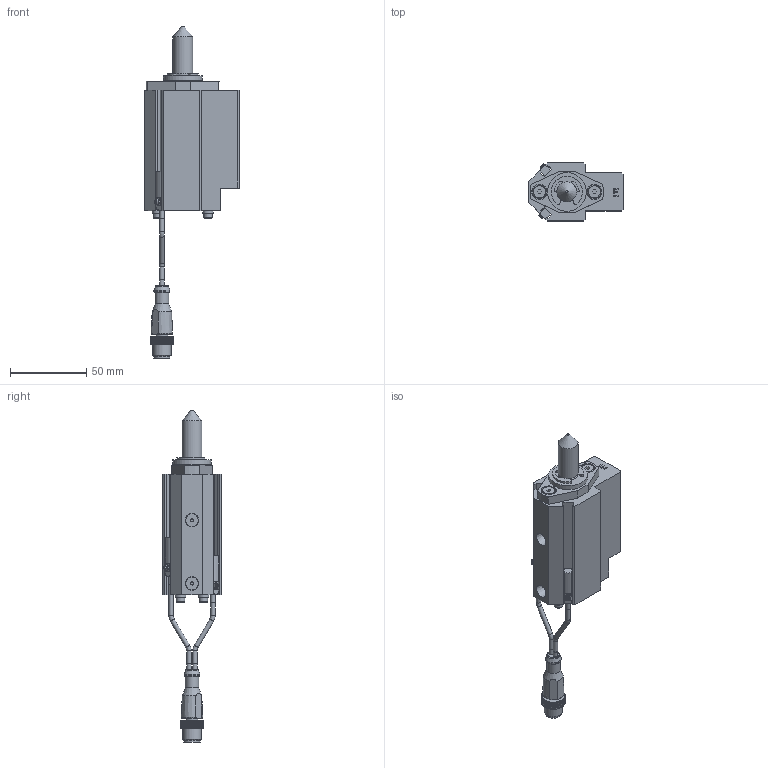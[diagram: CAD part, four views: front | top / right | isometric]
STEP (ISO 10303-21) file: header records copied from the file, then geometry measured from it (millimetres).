
FILE_DESCRIPTION(/* description */ ('NAAMS FLOATING MICRO PIN'),/* implementation_level */ '2;1');
FILE_NAME(/* name */ 'C:\Vault Workspace\CAD\Welker\Shot Pin\NMP\NMP130022AENL3.stp',/* time_stamp */ '2021-01-27T10:57:11-05:00',/* author */ ('WELKER'),/* organization */ (''),/* preprocessor_version */ 'ST-DEVELOPER v18.1',/* originating_system */ 'Autodesk Inventor 2020',/* authorisation */ '');
FILE_SCHEMA (('AUTOMOTIVE_DESIGN { 1 0 10303 214 3 1 1 }'));
Length unit declared in the file: millimetre
Products named in the file (16): NMPL01; NMP L3 SWITCH; L3 Connector; L3 Sensor 1; L3 Sensor 2; L3 Sensor cable; L3 Sensor cable 2; M3X0.5-8 SHCS; NL3; NMPE06; NMPE03; NMPE05-DIA-LENGTH; 985432A218; NMPE01E-PORT; RMPE02; M5X5 SHOULDER
Assembly tree (22 placements, depth 3):
  NMPL01
    NMP L3 SWITCH
      L3 Connector
      L3 Sensor 1
      L3 Sensor 2
      L3 Sensor cable
      L3 Sensor cable 2
    M3X0.5-8 SHCS  x4
    NL3  x4
    NMPE06
    NMPE03
    NMPE05-DIA-LENGTH
    985432A218
    NMPE01E-PORT
    RMPE02
    M5X5 SHOULDER  x2
Bounding box: 62 x 38.1 x 217.71 mm (x, y, z)
Volume: 115478.8 mm3; surface area: 45120.6 mm2
Topology: 21 solids, 21 shells, 746 faces, 2025 edges, 1353 vertices
Faces by surface type: plane 552, cylinder 143, cone 35, torus 11, sphere 3, bspline 2
Full cylindrical faces by diameter (mm): 2 x2, 2.459 x4, 2.9 x10, 3 x5, 3.242 x2, 3.4 x4, 4 x2, 5 x6, 5.5 x4, 6.647 x2, 7 x4, 8 x2, 8.3 x2, 9 x3, 10 x3, 10.4 x1, 10.5 x1, 12 x1, 13 x3, 16 x2, 19.05 x3, 21 x1, 22.5 x1, 23.672 x1, 24 x1, 25.4 x1, 25.5 x1, 26.5 x1, 28.677 x1, 29.21 x1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
Entity records: 22794 total; most frequent: CARTESIAN_POINT 4170, ORIENTED_EDGE 3742, DIRECTION 3723, EDGE_CURVE 1871, LINE 1387, VECTOR 1387, VERTEX_POINT 1258, AXIS2_PLACEMENT_3D 1168
